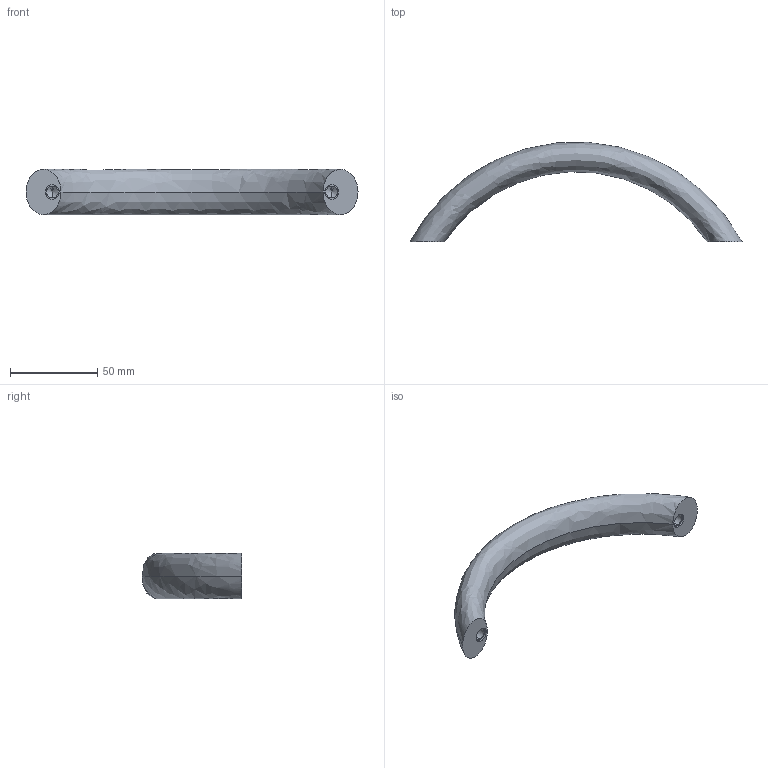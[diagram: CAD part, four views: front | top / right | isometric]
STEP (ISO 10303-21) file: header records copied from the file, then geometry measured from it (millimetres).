
FILE_DESCRIPTION (( 'STEP AP203' ), '1' );
FILE_NAME ('gn565-4_a_160-m8.step', '2010-11-02T08:21:10', ( '_' ), ( '_' ), 'SwSTEP 2.0', 'SolidWorks 2010', '' );
FILE_SCHEMA (( 'CONFIG_CONTROL_DESIGN' ));
Length unit declared in the file: millimetre
Products named in the file (1): gn565-4_a_160-m8
Bounding box: 190 x 56.76 x 26 mm (x, y, z)
Volume: 70923.4 mm3; surface area: 15351.5 mm2
Topology: 1 solids, 1 shells, 18 faces, 38 edges, 22 vertices
Faces by surface type: cylinder 8, cone 4, plane 4, bspline 2
Entity records: 1699 total; most frequent: CARTESIAN_POINT 1257, DIRECTION 78, ORIENTED_EDGE 68, EDGE_CURVE 34, AXIS2_PLACEMENT_3D 33, VERTEX_POINT 22, EDGE_LOOP 22, ADVANCED_FACE 18
